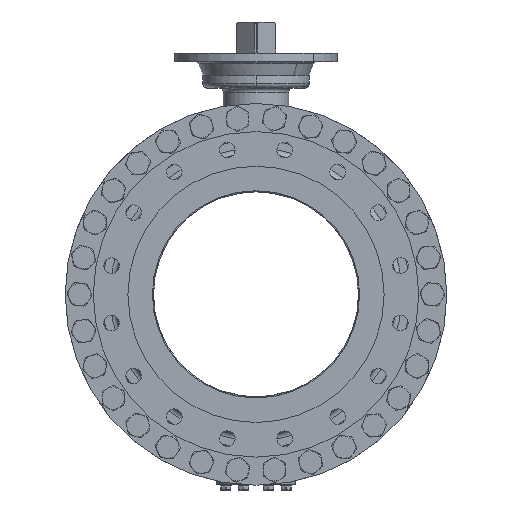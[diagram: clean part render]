
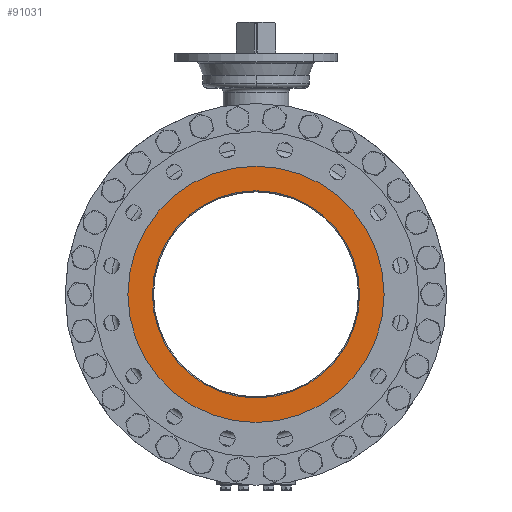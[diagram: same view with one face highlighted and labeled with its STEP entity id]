
A CAD part, left-side view. The second image highlights one B-rep face of the part: STEP entity #91031.
In plain terms, the highlighted planar face has unit normal (-1, 0, 0).
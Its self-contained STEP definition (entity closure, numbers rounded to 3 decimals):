
#14272=CARTESIAN_POINT('',(-381.,0.,0.));
#14273=DIRECTION('',(1.,0.,0.));
#14274=DIRECTION('',(0.,0.,1.));
#14275=AXIS2_PLACEMENT_3D('',#14272,#14273,#14274);
#14277=CARTESIAN_POINT('',(-381.,0.,0.));
#14278=DIRECTION('',(-1.,0.,0.));
#14279=DIRECTION('',(0.,0.,1.));
#14280=AXIS2_PLACEMENT_3D('',#14277,#14278,#14279);
#14282=CARTESIAN_POINT('',(-381.,0.,0.));
#14283=DIRECTION('',(-1.,0.,0.));
#14284=DIRECTION('',(0.,0.,1.));
#14285=AXIS2_PLACEMENT_3D('',#14282,#14283,#14284);
#14295=CARTESIAN_POINT('',(-381.,0.,0.));
#14296=DIRECTION('',(1.,0.,0.));
#14297=DIRECTION('',(0.,0.,1.));
#14298=AXIS2_PLACEMENT_3D('',#14295,#14296,#14297);
#63126=CARTESIAN_POINT('',(-381.,0.,190.));
#63128=VERTEX_POINT('',#63126);
#63134=CARTESIAN_POINT('',(-381.,0.,-190.));
#63136=VERTEX_POINT('',#63134);
#63285=CARTESIAN_POINT('',(-381.,0.,234.95));
#63287=VERTEX_POINT('',#63285);
#63289=CARTESIAN_POINT('',(-381.,0.,-234.95));
#63291=VERTEX_POINT('',#63289);
#91016=CARTESIAN_POINT('',(-381.,0.,0.));
#91017=DIRECTION('',(-1.,0.,0.));
#91018=DIRECTION('',(0.,0.,-1.));
#91019=AXIS2_PLACEMENT_3D('',#91016,#91017,#91018);
#91020=PLANE('',#91019);
#91022=ORIENTED_EDGE('',*,*,#91021,.F.);
#91024=ORIENTED_EDGE('',*,*,#91023,.T.);
#91025=EDGE_LOOP('',(#91022,#91024));
#91026=FACE_OUTER_BOUND('',#91025,.F.);
#91027=ORIENTED_EDGE('',*,*,#90995,.F.);
#91028=ORIENTED_EDGE('',*,*,#91011,.T.);
#91029=EDGE_LOOP('',(#91027,#91028));
#91030=FACE_BOUND('',#91029,.F.);
#91031=ADVANCED_FACE('',(#91026,#91030),#91020,.T.);
#14276=CIRCLE('',#14275,190.);
#14281=CIRCLE('',#14280,190.);
#14286=CIRCLE('',#14285,234.95);
#14299=CIRCLE('',#14298,234.95);
#90995=EDGE_CURVE('',#63128,#63136,#14276,.T.);
#91011=EDGE_CURVE('',#63128,#63136,#14281,.T.);
#91021=EDGE_CURVE('',#63287,#63291,#14286,.T.);
#91023=EDGE_CURVE('',#63287,#63291,#14299,.T.);
